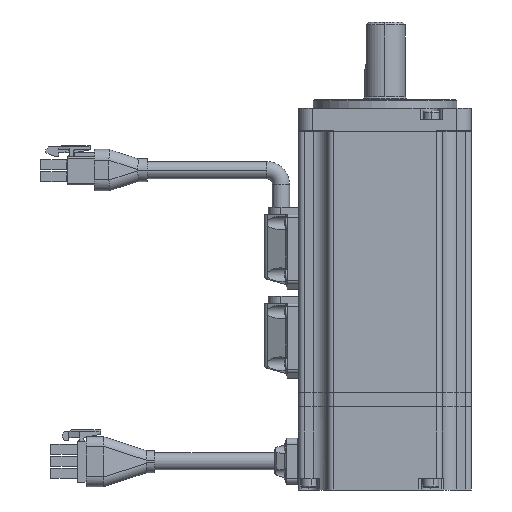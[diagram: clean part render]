
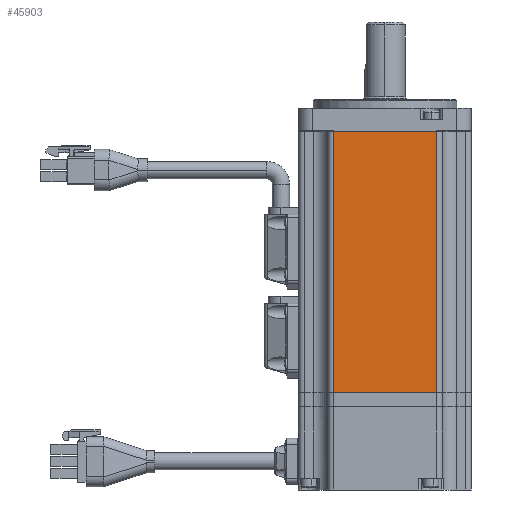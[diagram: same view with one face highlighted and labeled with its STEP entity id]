
A CAD part, left-side view. The second image highlights one B-rep face of the part: STEP entity #45903.
In plain terms, the highlighted planar face has unit normal (-1, 0, 0).
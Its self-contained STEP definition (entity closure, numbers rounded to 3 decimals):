
#1277 = EDGE_CURVE ( 'NONE', #36471, #36405, #7098, .T. ) ;
#1279 = EDGE_CURVE ( 'NONE', #36403, #36461, #7101, .T. ) ;
#1329 = EDGE_CURVE ( 'NONE', #36461, #36471, #7161, .T. ) ;
#1331 = EDGE_CURVE ( 'NONE', #36403, #36405, #7164, .T. ) ;
#6494 = DIRECTION ( 'NONE',  ( 0., 0., 1. ) ) ;
#6525 = CARTESIAN_POINT ( 'NONE',  ( -30.1, -18., 91. ) ) ;
#6526 = DIRECTION ( 'NONE',  ( 0., 0., -1. ) ) ;
#6530 = CARTESIAN_POINT ( 'NONE',  ( -30.1, 18., 91. ) ) ;
#6722 = CARTESIAN_POINT ( 'NONE',  ( -30.1, 20., 0. ) ) ;
#6723 = DIRECTION ( 'NONE',  ( 0., -1., 0. ) ) ;
#6734 = CARTESIAN_POINT ( 'NONE',  ( -30.1, 20., 91. ) ) ;
#6735 = DIRECTION ( 'NONE',  ( 0., -1., 0. ) ) ;
#7098 = LINE ( 'NONE', #6525, #7100 ) ;
#7100 = VECTOR ( 'NONE', #6494, 1000. ) ;
#7101 = LINE ( 'NONE', #6530, #7103 ) ;
#7103 = VECTOR ( 'NONE', #6526, 1000. ) ;
#7161 = LINE ( 'NONE', #6722, #7163 ) ;
#7163 = VECTOR ( 'NONE', #6723, 1000. ) ;
#7164 = LINE ( 'NONE', #6734, #7167 ) ;
#7167 = VECTOR ( 'NONE', #6735, 1000. ) ;
#15962 = CARTESIAN_POINT ( 'NONE',  ( -30.1, 18., 91. ) ) ;
#15963 = CARTESIAN_POINT ( 'NONE',  ( -30.1, -18., 91. ) ) ;
#15981 = CARTESIAN_POINT ( 'NONE',  ( -30.1, 18., 0. ) ) ;
#15984 = CARTESIAN_POINT ( 'NONE',  ( -30.1, -18., 0. ) ) ;
#27602 = AXIS2_PLACEMENT_3D ( 'NONE', #29789, #29797, #29798 ) ;
#28421 = FACE_OUTER_BOUND ( 'NONE', #40764, .T. ) ;
#29789 = CARTESIAN_POINT ( 'NONE',  ( -30.1, 20., 91. ) ) ;
#29794 = PLANE ( 'NONE',  #27602 ) ;
#29797 = DIRECTION ( 'NONE',  ( 1., 0., 0. ) ) ;
#29798 = DIRECTION ( 'NONE',  ( 0., 1., 0. ) ) ;
#36403 = VERTEX_POINT ( 'NONE', #15962 ) ;
#36405 = VERTEX_POINT ( 'NONE', #15963 ) ;
#36461 = VERTEX_POINT ( 'NONE', #15981 ) ;
#36471 = VERTEX_POINT ( 'NONE', #15984 ) ;
#38268 = ORIENTED_EDGE ( 'NONE', *, *, #1329, .T. ) ;
#38269 = ORIENTED_EDGE ( 'NONE', *, *, #1277, .T. ) ;
#38270 = ORIENTED_EDGE ( 'NONE', *, *, #1331, .F. ) ;
#38271 = ORIENTED_EDGE ( 'NONE', *, *, #1279, .T. ) ;
#40764 = EDGE_LOOP ( 'NONE', ( #38268, #38269, #38270, #38271 ) ) ;
#45903 = ADVANCED_FACE ( 'NONE', ( #28421 ), #29794, .F. ) ;
